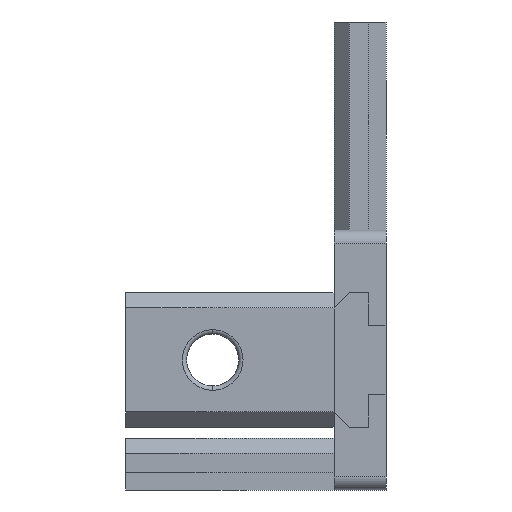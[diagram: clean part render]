
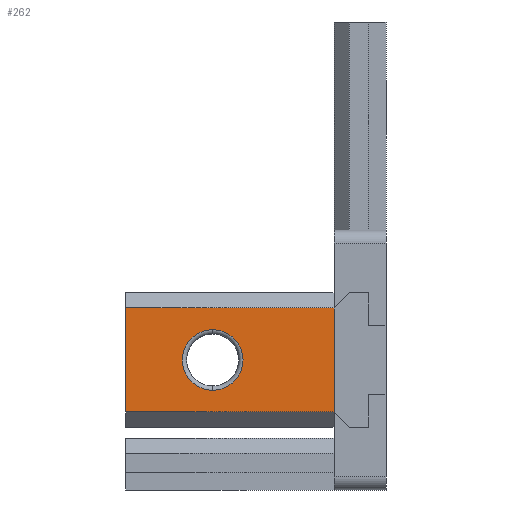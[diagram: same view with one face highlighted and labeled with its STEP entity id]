
A CAD part, left-side view. The second image highlights one B-rep face of the part: STEP entity #262.
In plain terms, the highlighted planar face has unit normal (-1, 0, 0).
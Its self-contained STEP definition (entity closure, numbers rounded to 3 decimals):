
#14 = AXIS2_PLACEMENT_3D ( 'NONE', #168, #1456, #349 ) ;
#156 = DIRECTION ( 'NONE',  ( -1., 0., 0. ) ) ;
#167 = EDGE_CURVE ( 'NONE', #1365, #549, #1790, .T. ) ;
#168 = CARTESIAN_POINT ( 'NONE',  ( -4.261, 20., -7.228 ) ) ;
#195 = EDGE_CURVE ( 'NONE', #205, #1491, #1724, .T. ) ;
#205 = VERTEX_POINT ( 'NONE', #1927 ) ;
#247 = VECTOR ( 'NONE', #1360, 1000. ) ;
#262 = ADVANCED_FACE ( 'NONE', ( #2049, #2000 ), #2375, .T. ) ;
#318 = ORIENTED_EDGE ( 'NONE', *, *, #2114, .T. ) ;
#346 = AXIS2_PLACEMENT_3D ( 'NONE', #1428, #156, #1449 ) ;
#349 = DIRECTION ( 'NONE',  ( 0., 0., 1. ) ) ;
#365 = CIRCLE ( 'NONE', #14, 3.5 ) ;
#372 = VECTOR ( 'NONE', #882, 1000. ) ;
#549 = VERTEX_POINT ( 'NONE', #1870 ) ;
#550 = ORIENTED_EDGE ( 'NONE', *, *, #167, .T. ) ;
#759 = VERTEX_POINT ( 'NONE', #886 ) ;
#778 = CARTESIAN_POINT ( 'NONE',  ( -4.261, 30., -13.228 ) ) ;
#882 = DIRECTION ( 'NONE',  ( 0., 0., -1. ) ) ;
#886 = CARTESIAN_POINT ( 'NONE',  ( -4.261, 20., -10.728 ) ) ;
#915 = DIRECTION ( 'NONE',  ( 0., 0., -1. ) ) ;
#940 = AXIS2_PLACEMENT_3D ( 'NONE', #2162, #1056, #2342 ) ;
#1008 = ORIENTED_EDGE ( 'NONE', *, *, #1685, .F. ) ;
#1056 = DIRECTION ( 'NONE',  ( 1., 0., 0. ) ) ;
#1108 = ORIENTED_EDGE ( 'NONE', *, *, #1983, .T. ) ;
#1128 = ORIENTED_EDGE ( 'NONE', *, *, #195, .F. ) ;
#1141 = EDGE_LOOP ( 'NONE', ( #1108, #318 ) ) ;
#1147 = CIRCLE ( 'NONE', #940, 3.5 ) ;
#1181 = CARTESIAN_POINT ( 'NONE',  ( -4.261, 30., -1.228 ) ) ;
#1297 = VECTOR ( 'NONE', #1541, 1000. ) ;
#1360 = DIRECTION ( 'NONE',  ( 0., -1., 0. ) ) ;
#1365 = VERTEX_POINT ( 'NONE', #778 ) ;
#1428 = CARTESIAN_POINT ( 'NONE',  ( -4.261, 30., 0. ) ) ;
#1449 = DIRECTION ( 'NONE',  ( 0., 0., 1. ) ) ;
#1456 = DIRECTION ( 'NONE',  ( 1., 0., 0. ) ) ;
#1491 = VERTEX_POINT ( 'NONE', #2095 ) ;
#1504 = LINE ( 'NONE', #1823, #1955 ) ;
#1541 = DIRECTION ( 'NONE',  ( 0., -1., 0. ) ) ;
#1557 = EDGE_CURVE ( 'NONE', #205, #1365, #1800, .T. ) ;
#1685 = EDGE_CURVE ( 'NONE', #1491, #549, #1504, .T. ) ;
#1724 = LINE ( 'NONE', #1181, #247 ) ;
#1790 = LINE ( 'NONE', #2098, #1297 ) ;
#1800 = LINE ( 'NONE', #1982, #372 ) ;
#1823 = CARTESIAN_POINT ( 'NONE',  ( -4.261, 6., 0. ) ) ;
#1870 = CARTESIAN_POINT ( 'NONE',  ( -4.261, 6., -13.228 ) ) ;
#1927 = CARTESIAN_POINT ( 'NONE',  ( -4.261, 30., -1.228 ) ) ;
#1955 = VECTOR ( 'NONE', #915, 1000. ) ;
#1982 = CARTESIAN_POINT ( 'NONE',  ( -4.261, 30., 0. ) ) ;
#1983 = EDGE_CURVE ( 'NONE', #2048, #759, #1147, .T. ) ;
#2000 = FACE_OUTER_BOUND ( 'NONE', #2235, .T. ) ;
#2048 = VERTEX_POINT ( 'NONE', #2350 ) ;
#2049 = FACE_BOUND ( 'NONE', #1141, .T. ) ;
#2050 = ORIENTED_EDGE ( 'NONE', *, *, #1557, .T. ) ;
#2095 = CARTESIAN_POINT ( 'NONE',  ( -4.261, 6., -1.228 ) ) ;
#2098 = CARTESIAN_POINT ( 'NONE',  ( -4.261, 30., -13.228 ) ) ;
#2114 = EDGE_CURVE ( 'NONE', #759, #2048, #365, .T. ) ;
#2162 = CARTESIAN_POINT ( 'NONE',  ( -4.261, 20., -7.228 ) ) ;
#2235 = EDGE_LOOP ( 'NONE', ( #1008, #1128, #2050, #550 ) ) ;
#2342 = DIRECTION ( 'NONE',  ( 0., 0., 1. ) ) ;
#2350 = CARTESIAN_POINT ( 'NONE',  ( -4.261, 20., -3.728 ) ) ;
#2375 = PLANE ( 'NONE',  #346 ) ;
